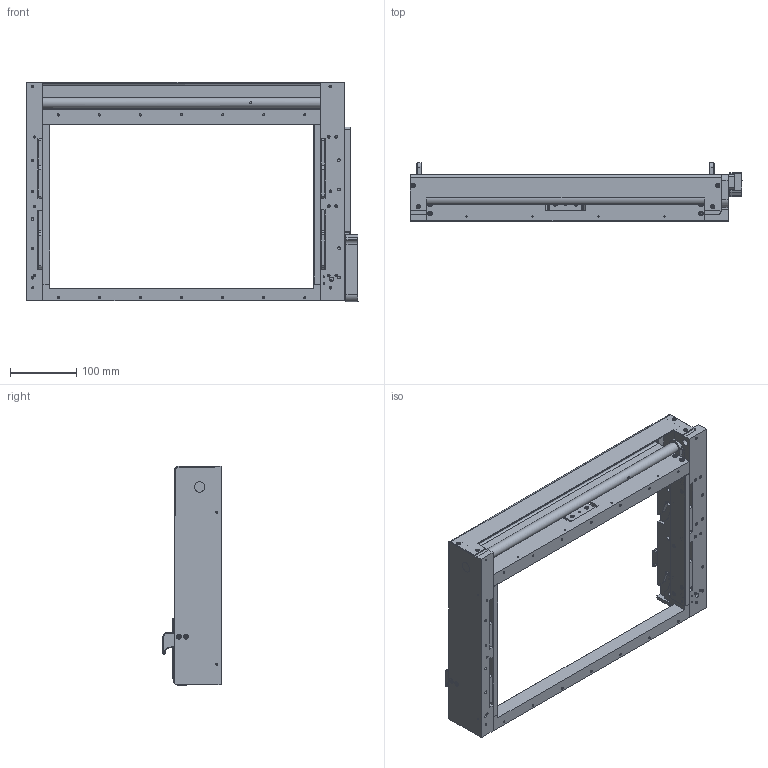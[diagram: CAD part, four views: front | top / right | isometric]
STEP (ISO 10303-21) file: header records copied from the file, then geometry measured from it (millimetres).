
FILE_DESCRIPTION((''),'2;1');
FILE_NAME('C:\copy my documents\Inventor\web site project\Receivers\7511211-25-RevC-STP.stp','2013-09-09T10:06:08',('davecooper'),(''),'Autodesk Inventor 2011','Autodesk Inventor 2011','');
FILE_SCHEMA(('AUTOMOTIVE_DESIGN { 1 0 10303 214 1 1 1 1 }'));
Length unit declared in the file: inch
Products named in the file (1): 7511211-25-CU
Bounding box: 502.96 x 87.96 x 332.33 mm (x, y, z)
Surface area: 592634.3 mm2 (no closed solid volume)
Topology: 0 solids, 95 shells, 3845 faces, 9487 edges, 6033 vertices
Faces by surface type: plane 2124, bspline 678, cylinder 576, cone 427, torus 36, sphere 4
Full cylindrical faces by diameter (mm): 0.005 x1, 1.194 x2, 1.524 x2, 1.702 x2, 1.981 x1, 2.156 x8, 2.159 x13, 2.184 x2, 2.438 x2, 2.642 x51, 2.653 x7, 2.769 x7, 2.845 x15, 2.946 x2, 3.175 x16, 3.302 x43, 3.505 x5, 3.81 x4, 3.962 x10, 4.064 x3, 4.166 x14, 4.496 x14, 4.763 x1, 4.826 x5, 4.928 x2, 5.105 x4, 5.74 x1, 6.325 x4, 6.337 x7, 6.35 x19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
Entity records: 117814 total; most frequent: CARTESIAN_POINT 31477, ORIENTED_EDGE 17010, DIRECTION 14704, EDGE_CURVE 8505, VERTEX_POINT 5780, VECTOR 5210, LINE 5210, EDGE_LOOP 5009
